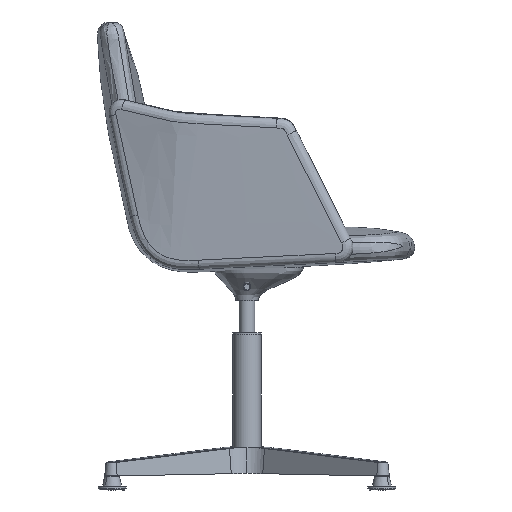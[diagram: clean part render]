
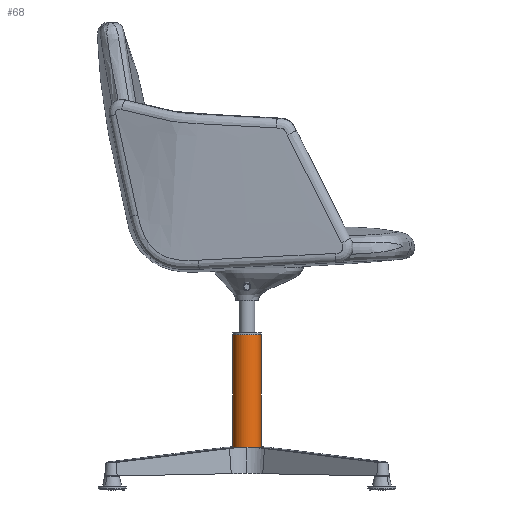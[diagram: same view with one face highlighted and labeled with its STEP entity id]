
A CAD part, left-side view. The second image highlights one B-rep face of the part: STEP entity #68.
In plain terms, the highlighted free-form (B-spline) face has degree [2, 1] with [5, 2] control points.
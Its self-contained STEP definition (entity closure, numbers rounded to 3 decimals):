
#68=ADVANCED_FACE('',(#273),#2871,.T.);
#273=FACE_OUTER_BOUND('',#478,.T.);
#478=EDGE_LOOP('',(#708,#709,#710,#711));
#708=ORIENTED_EDGE('',*,*,#1528,.T.);
#709=ORIENTED_EDGE('',*,*,#1525,.T.);
#710=ORIENTED_EDGE('',*,*,#1529,.F.);
#711=ORIENTED_EDGE('',*,*,#1527,.F.);
#1525=EDGE_CURVE('',#2471,#2472,#1993,.T.);
#1527=EDGE_CURVE('',#2473,#2474,#2366,.T.);
#1528=EDGE_CURVE('',#2473,#2471,#2367,.T.);
#1529=EDGE_CURVE('',#2474,#2472,#2368,.T.);
#1993=B_SPLINE_CURVE_WITH_KNOTS('',1,(#3806,#3807),.UNSPECIFIED.,.F.,.F.,
(2,2),(0.,176.011),.UNSPECIFIED.);
#2366=(
BOUNDED_CURVE()
B_SPLINE_CURVE(1,(#3813,#3814),.UNSPECIFIED.,.F.,.F.)
B_SPLINE_CURVE_WITH_KNOTS((2,2),(0.,176.011),.UNSPECIFIED.)
CURVE()
GEOMETRIC_REPRESENTATION_ITEM()
RATIONAL_B_SPLINE_CURVE((1.,1.))
REPRESENTATION_ITEM('')
);
#2367=(
BOUNDED_CURVE()
B_SPLINE_CURVE(2,(#3815,#3816,#3817,#3818,#3819),.UNSPECIFIED.,.F.,.F.)
B_SPLINE_CURVE_WITH_KNOTS((3,2,3),(-75.398,-37.699,
0.),.UNSPECIFIED.)
CURVE()
GEOMETRIC_REPRESENTATION_ITEM()
RATIONAL_B_SPLINE_CURVE((1.,0.707,1.,0.707,1.))
REPRESENTATION_ITEM('')
);
#2368=(
BOUNDED_CURVE()
B_SPLINE_CURVE(2,(#3820,#3821,#3822,#3823,#3824),.UNSPECIFIED.,.F.,.F.)
B_SPLINE_CURVE_WITH_KNOTS((3,2,3),(-75.398,-37.699,
0.),.UNSPECIFIED.)
CURVE()
GEOMETRIC_REPRESENTATION_ITEM()
RATIONAL_B_SPLINE_CURVE((1.,0.707,1.,0.707,1.))
REPRESENTATION_ITEM('')
);
#2471=VERTEX_POINT('',#3797);
#2472=VERTEX_POINT('',#3798);
#2473=VERTEX_POINT('',#3799);
#2474=VERTEX_POINT('',#3800);
#2871=(
BOUNDED_SURFACE()
B_SPLINE_SURFACE(2,1,((#3787,#3788),(#3789,#3790),(#3791,#3792),(#3793,
#3794),(#3795,#3796)),.UNSPECIFIED.,.F.,.F.,.F.)
B_SPLINE_SURFACE_WITH_KNOTS((3,2,3),(2,2),(-75.398,-37.699,
0.),(0.,176.011),.UNSPECIFIED.)
GEOMETRIC_REPRESENTATION_ITEM()
RATIONAL_B_SPLINE_SURFACE(((1.,1.),(0.707,0.707),
(1.,1.),(0.707,0.707),(1.,1.)))
REPRESENTATION_ITEM('')
SURFACE()
);
#3787=CARTESIAN_POINT('',(0.,-25.,277.));
#3788=CARTESIAN_POINT('',(0.,-25.,52.531));
#3789=CARTESIAN_POINT('',(-25.,-25.,277.));
#3790=CARTESIAN_POINT('',(-25.,-25.,52.531));
#3791=CARTESIAN_POINT('',(-25.,0.,277.));
#3792=CARTESIAN_POINT('',(-25.,0.,52.531));
#3793=CARTESIAN_POINT('',(-25.,25.,277.));
#3794=CARTESIAN_POINT('',(-25.,25.,52.531));
#3795=CARTESIAN_POINT('',(0.,25.,277.));
#3796=CARTESIAN_POINT('',(0.,25.,52.531));
#3797=CARTESIAN_POINT('',(0.,25.,277.));
#3798=CARTESIAN_POINT('',(0.,25.,52.531));
#3799=CARTESIAN_POINT('',(0.,-25.,277.));
#3800=CARTESIAN_POINT('',(0.,-25.,52.531));
#3806=CARTESIAN_POINT('',(0.,25.,277.));
#3807=CARTESIAN_POINT('',(0.,25.,52.531));
#3813=CARTESIAN_POINT('',(0.,-25.,277.));
#3814=CARTESIAN_POINT('',(0.,-25.,52.531));
#3815=CARTESIAN_POINT('',(0.,-25.,277.));
#3816=CARTESIAN_POINT('',(-25.,-25.,277.));
#3817=CARTESIAN_POINT('',(-25.,0.,277.));
#3818=CARTESIAN_POINT('',(-25.,25.,277.));
#3819=CARTESIAN_POINT('',(0.,25.,277.));
#3820=CARTESIAN_POINT('',(0.,-25.,52.531));
#3821=CARTESIAN_POINT('',(-25.,-25.,52.531));
#3822=CARTESIAN_POINT('',(-25.,0.,52.531));
#3823=CARTESIAN_POINT('',(-25.,25.,52.531));
#3824=CARTESIAN_POINT('',(0.,25.,52.531));
